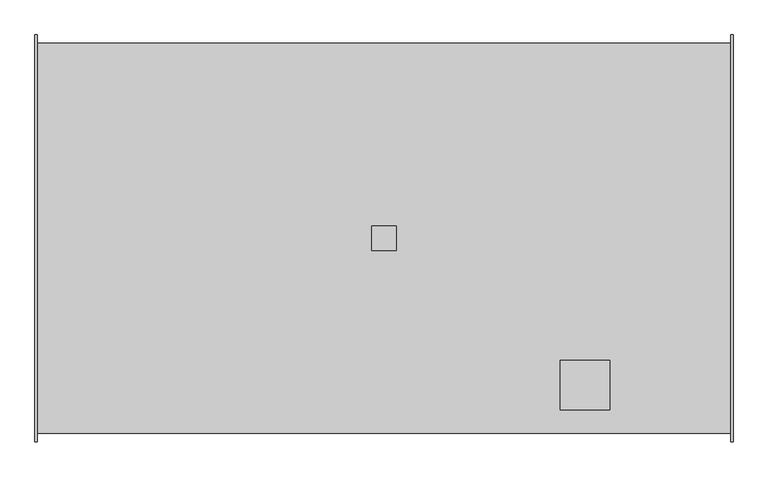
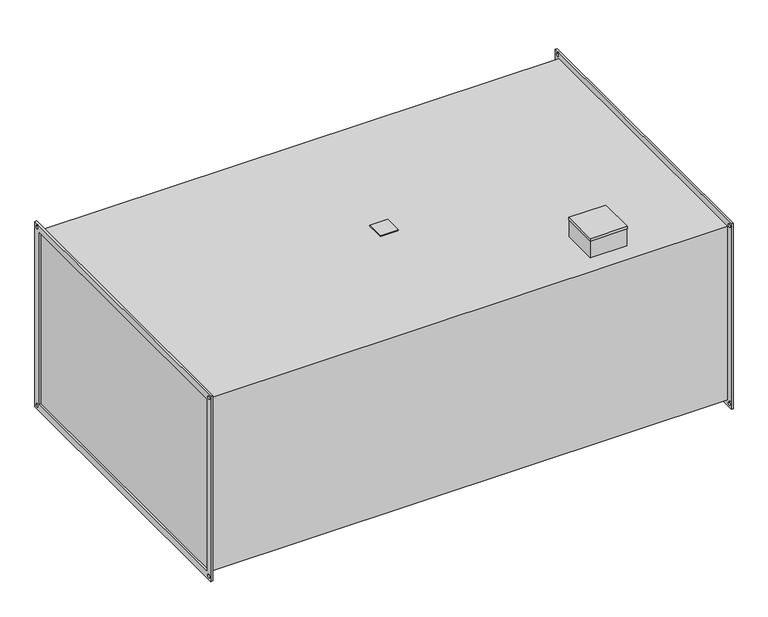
"""IFC4 building model written with IfcOpenShell, lengths in millimetres: damper geometry, KORF_Секция бактерицидной обработки воздуха_SBOW : SBOW 80-50/127 (36)."""

from ifc_helpers import new_model, si_unit, point, frame, frame_2d, origin, place, context, project, spatial, polyline, circle_curve, trimmed, segment, composite_curve, outline, extrude, faceted_brep, source, transform, mapped, element, save


def damper_2234db04(model_context):
    return source(origin(), model_context, "Body", "SolidModel", [
        extrude(outline(polyline([(695.0, -25.0), (695.0, 25.0), (745.0, 25.0), (745.0, -25.0), (695.0, -25.0)])), frame((0.0, 0.0, 253.0), z_axis=(0.0, 0.0, 1.0), x_axis=(1.0, 0.0, 0.0)), (0.0, 0.0, 1.0), 2.0),
        faceted_brep([(1186.0, -252.0, 310.0), (1084.0, -252.0, 310.0), (1084.0, -354.0, 310.0), (1186.0, -354.0, 310.0), (1186.0, -252.0, 303.0), (1186.0, -354.0, 303.0), (1084.0, -354.0, 303.0), (1084.0, -252.0, 303.0), (1185.0, -253.0, 303.0), (1085.0, -253.0, 303.0), (1085.0, -353.0, 303.0), (1185.0, -353.0, 303.0), (1185.0, -253.0, 253.0), (1185.0, -353.0, 253.0), (1085.0, -353.0, 253.0), (1085.0, -253.0, 253.0)], [[[0, 1, 2, 3]], [[4, 5, 6, 7], [8, 9, 10, 11]], [[1, 0, 4, 7]], [[2, 1, 7, 6]], [[3, 2, 6, 5]], [[0, 3, 5, 4]], [[12, 13, 14, 15]], [[12, 15, 9, 8]], [[15, 14, 10, 9]], [[14, 13, 11, 10]], [[13, 12, 8, 11]]]),
        extrude(outline(polyline([(-420.0, 270.0), (420.0, 270.0), (420.0, -270.0), (-420.0, -270.0), (-420.0, 270.0)]), holes=[polyline([(-400.0, 250.0), (-400.0, -250.0), (400.0, -250.0), (400.0, 250.0), (-400.0, 250.0)]), composite_curve([segment(trimmed(circle_curve(frame_2d((410.0, 260.0)), 4.5), [point((405.5, 260.0))], [point((414.5, 260.0))], True, "CARTESIAN"), True, "CONTINUOUS"), segment(trimmed(circle_curve(frame_2d((410.0, 260.0)), 4.5), [point((414.5, 260.0))], [point((405.5, 260.0))], True, "CARTESIAN"), True, "CONTINUOUS")], self_intersect=False), composite_curve([segment(trimmed(circle_curve(frame_2d((-410.0, 260.0)), 4.5), [point((-414.5, 260.0))], [point((-405.5, 260.0))], True, "CARTESIAN"), True, "CONTINUOUS"), segment(trimmed(circle_curve(frame_2d((-410.0, 260.0)), 4.5), [point((-405.5, 260.0))], [point((-414.5, 260.0))], True, "CARTESIAN"), True, "CONTINUOUS")], self_intersect=False), composite_curve([segment(trimmed(circle_curve(frame_2d((-410.0, -260.0)), 4.5), [point((-414.5, -260.0))], [point((-405.5, -260.0))], True, "CARTESIAN"), True, "CONTINUOUS"), segment(trimmed(circle_curve(frame_2d((-410.0, -260.0)), 4.5), [point((-405.5, -260.0))], [point((-414.5, -260.0))], True, "CARTESIAN"), True, "CONTINUOUS")], self_intersect=False), composite_curve([segment(trimmed(circle_curve(frame_2d((410.0, -260.0)), 4.5), [point((405.5, -260.0))], [point((414.5, -260.0))], True, "CARTESIAN"), True, "CONTINUOUS"), segment(trimmed(circle_curve(frame_2d((410.0, -260.0)), 4.5), [point((414.5, -260.0))], [point((405.5, -260.0))], True, "CARTESIAN"), True, "CONTINUOUS")], self_intersect=False)]), frame((1435.0, 0.0, 0.0), z_axis=(1.0, 0.0, 0.0), x_axis=(0.0, 1.0, 0.0)), (0.0, 0.0, 1.0), 5.0),
        extrude(outline(polyline([(-420.0, 270.0), (420.0, 270.0), (420.0, -270.0), (-420.0, -270.0), (-420.0, 270.0)]), holes=[polyline([(-400.0, 250.0), (-400.0, -250.0), (400.0, -250.0), (400.0, 250.0), (-400.0, 250.0)]), composite_curve([segment(trimmed(circle_curve(frame_2d((410.0, 260.0)), 4.5), [point((405.5, 260.0))], [point((414.5, 260.0))], True, "CARTESIAN"), True, "CONTINUOUS"), segment(trimmed(circle_curve(frame_2d((410.0, 260.0)), 4.5), [point((414.5, 260.0))], [point((405.5, 260.0))], True, "CARTESIAN"), True, "CONTINUOUS")], self_intersect=False), composite_curve([segment(trimmed(circle_curve(frame_2d((-410.0, 260.0)), 4.5), [point((-414.5, 260.0))], [point((-405.5, 260.0))], True, "CARTESIAN"), True, "CONTINUOUS"), segment(trimmed(circle_curve(frame_2d((-410.0, 260.0)), 4.5), [point((-405.5, 260.0))], [point((-414.5, 260.0))], True, "CARTESIAN"), True, "CONTINUOUS")], self_intersect=False), composite_curve([segment(trimmed(circle_curve(frame_2d((-410.0, -260.0)), 4.5), [point((-414.5, -260.0))], [point((-405.5, -260.0))], True, "CARTESIAN"), True, "CONTINUOUS"), segment(trimmed(circle_curve(frame_2d((-410.0, -260.0)), 4.5), [point((-405.5, -260.0))], [point((-414.5, -260.0))], True, "CARTESIAN"), True, "CONTINUOUS")], self_intersect=False), composite_curve([segment(trimmed(circle_curve(frame_2d((410.0, -260.0)), 4.5), [point((405.5, -260.0))], [point((414.5, -260.0))], True, "CARTESIAN"), True, "CONTINUOUS"), segment(trimmed(circle_curve(frame_2d((410.0, -260.0)), 4.5), [point((414.5, -260.0))], [point((405.5, -260.0))], True, "CARTESIAN"), True, "CONTINUOUS")], self_intersect=False)]), frame((0.0, 0.0, 0.0), z_axis=(1.0, 0.0, 0.0), x_axis=(0.0, 1.0, 0.0)), (0.0, 0.0, 1.0), 5.0),
        extrude(outline(polyline([(1435.0, 403.0), (1435.0, -403.0), (5.0, -403.0), (5.0, 403.0), (1435.0, 403.0)])), frame((0.0, 0.0, -253.0), z_axis=(0.0, 0.0, 1.0), x_axis=(1.0, 0.0, 0.0)), (0.0, 0.0, 1.0), 506.0),
    ])


if __name__ == "__main__":
    model = new_model("IFC4")
    model_context = context("Model", 3, world=origin())
    ifc_project = project(units=[si_unit("LENGTHUNIT", "METRE", prefix="MILLI")], contexts=[model_context])
    site = spatial("IfcSite", under=ifc_project)
    building = spatial("IfcBuilding", under=site)
    placement = place(None, origin())
    damper_shape = damper_2234db04(model_context)
    element("IfcDamper", 1, ObjectType="KORF_Секция бактерицидной обработки воздуха_SBOW : SBOW 80-50/127 (36)", at=placement, inside=building, context=model_context, shape_type="MappedRepresentation", body=[
        mapped(damper_shape, transform((0.0, 0.0, 0.0), x_axis=(1.0, 0.0, 0.0), y_axis=(0.0, 1.0, 0.0), z_axis=(0.0, 0.0, 1.0))),
    ])
    save(model, "model.ifc")
